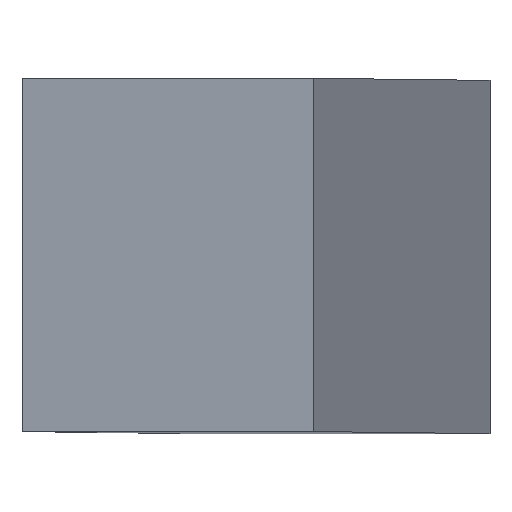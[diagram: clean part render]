
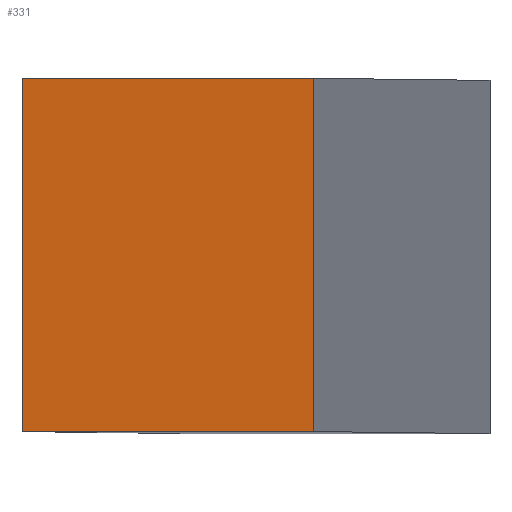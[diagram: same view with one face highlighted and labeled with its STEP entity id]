
A CAD part, top view. The second image highlights one B-rep face of the part: STEP entity #331.
In plain terms, the highlighted planar face has unit normal (-0.143, 0, 0.99).
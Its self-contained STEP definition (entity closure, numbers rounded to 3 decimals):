
#22 = VERTEX_POINT('',#23);
#23 = CARTESIAN_POINT('',(-90.103,-12.,-18.569));
#32 = PLANE('',#33);
#33 = AXIS2_PLACEMENT_3D('',#34,#35,#36);
#34 = CARTESIAN_POINT('',(-90.103,-12.,-18.569));
#35 = DIRECTION('',(-0.99,0.,-0.143));
#36 = DIRECTION('',(0.143,0.,-0.99));
#44 = PLANE('',#45);
#45 = AXIS2_PLACEMENT_3D('',#46,#47,#48);
#46 = CARTESIAN_POINT('',(-90.103,-12.,-18.569));
#47 = DIRECTION('',(0.,1.,0.));
#48 = DIRECTION('',(0.143,0.,-0.99));
#56 = EDGE_CURVE('',#22,#57,#59,.T.);
#57 = VERTEX_POINT('',#58);
#58 = CARTESIAN_POINT('',(-90.103,12.,-18.569));
#59 = SURFACE_CURVE('',#60,(#64,#71),.PCURVE_S1.);
#60 = LINE('',#61,#62);
#61 = CARTESIAN_POINT('',(-90.103,-12.,-18.569));
#62 = VECTOR('',#63,1.);
#63 = DIRECTION('',(0.,1.,0.));
#64 = PCURVE('',#32,#65);
#65 = DEFINITIONAL_REPRESENTATION('',(#66),#70);
#66 = LINE('',#67,#68);
#67 = CARTESIAN_POINT('',(0.,0.));
#68 = VECTOR('',#69,1.);
#69 = DIRECTION('',(0.,-1.));
#70 = ( GEOMETRIC_REPRESENTATION_CONTEXT(2) 
PARAMETRIC_REPRESENTATION_CONTEXT() REPRESENTATION_CONTEXT('2D SPACE',''
  ) );
#71 = PCURVE('',#72,#77);
#72 = PLANE('',#73);
#73 = AXIS2_PLACEMENT_3D('',#74,#75,#76);
#74 = CARTESIAN_POINT('',(-90.103,-12.,-18.569));
#75 = DIRECTION('',(0.143,0.,-0.99));
#76 = DIRECTION('',(-0.99,0.,-0.143));
#77 = DEFINITIONAL_REPRESENTATION('',(#78),#82);
#78 = LINE('',#79,#80);
#79 = CARTESIAN_POINT('',(0.,0.));
#80 = VECTOR('',#81,1.);
#81 = DIRECTION('',(0.,1.));
#82 = ( GEOMETRIC_REPRESENTATION_CONTEXT(2) 
PARAMETRIC_REPRESENTATION_CONTEXT() REPRESENTATION_CONTEXT('2D SPACE',''
  ) );
#100 = PLANE('',#101);
#101 = AXIS2_PLACEMENT_3D('',#102,#103,#104);
#102 = CARTESIAN_POINT('',(-90.103,12.,-18.569));
#103 = DIRECTION('',(0.,1.,0.));
#104 = DIRECTION('',(0.143,0.,-0.99));
#142 = VERTEX_POINT('',#143);
#143 = CARTESIAN_POINT('',(-109.897,-12.,-21.431));
#152 = PLANE('',#153);
#153 = AXIS2_PLACEMENT_3D('',#154,#155,#156);
#154 = CARTESIAN_POINT('',(-109.897,-12.,-21.431));
#155 = DIRECTION('',(-0.99,0.,-0.143));
#156 = DIRECTION('',(0.143,0.,-0.99));
#171 = EDGE_CURVE('',#142,#172,#174,.T.);
#172 = VERTEX_POINT('',#173);
#173 = CARTESIAN_POINT('',(-109.897,12.,-21.431));
#174 = SURFACE_CURVE('',#175,(#179,#186),.PCURVE_S1.);
#175 = LINE('',#176,#177);
#176 = CARTESIAN_POINT('',(-109.897,-12.,-21.431));
#177 = VECTOR('',#178,1.);
#178 = DIRECTION('',(0.,1.,0.));
#179 = PCURVE('',#152,#180);
#180 = DEFINITIONAL_REPRESENTATION('',(#181),#185);
#181 = LINE('',#182,#183);
#182 = CARTESIAN_POINT('',(0.,0.));
#183 = VECTOR('',#184,1.);
#184 = DIRECTION('',(0.,-1.));
#185 = ( GEOMETRIC_REPRESENTATION_CONTEXT(2) 
PARAMETRIC_REPRESENTATION_CONTEXT() REPRESENTATION_CONTEXT('2D SPACE',''
  ) );
#186 = PCURVE('',#72,#187);
#187 = DEFINITIONAL_REPRESENTATION('',(#188),#192);
#188 = LINE('',#189,#190);
#189 = CARTESIAN_POINT('',(20.,0.));
#190 = VECTOR('',#191,1.);
#191 = DIRECTION('',(0.,1.));
#192 = ( GEOMETRIC_REPRESENTATION_CONTEXT(2) 
PARAMETRIC_REPRESENTATION_CONTEXT() REPRESENTATION_CONTEXT('2D SPACE',''
  ) );
#241 = EDGE_CURVE('',#22,#142,#242,.T.);
#242 = SURFACE_CURVE('',#243,(#247,#254),.PCURVE_S1.);
#243 = LINE('',#244,#245);
#244 = CARTESIAN_POINT('',(-90.103,-12.,-18.569));
#245 = VECTOR('',#246,1.);
#246 = DIRECTION('',(-0.99,0.,-0.143));
#247 = PCURVE('',#44,#248);
#248 = DEFINITIONAL_REPRESENTATION('',(#249),#253);
#249 = LINE('',#250,#251);
#250 = CARTESIAN_POINT('',(0.,0.));
#251 = VECTOR('',#252,1.);
#252 = DIRECTION('',(0.,1.));
#253 = ( GEOMETRIC_REPRESENTATION_CONTEXT(2) 
PARAMETRIC_REPRESENTATION_CONTEXT() REPRESENTATION_CONTEXT('2D SPACE',''
  ) );
#254 = PCURVE('',#72,#255);
#255 = DEFINITIONAL_REPRESENTATION('',(#256),#260);
#256 = LINE('',#257,#258);
#257 = CARTESIAN_POINT('',(0.,0.));
#258 = VECTOR('',#259,1.);
#259 = DIRECTION('',(1.,0.));
#260 = ( GEOMETRIC_REPRESENTATION_CONTEXT(2) 
PARAMETRIC_REPRESENTATION_CONTEXT() REPRESENTATION_CONTEXT('2D SPACE',''
  ) );
#288 = EDGE_CURVE('',#57,#172,#289,.T.);
#289 = SURFACE_CURVE('',#290,(#294,#301),.PCURVE_S1.);
#290 = LINE('',#291,#292);
#291 = CARTESIAN_POINT('',(-90.103,12.,-18.569));
#292 = VECTOR('',#293,1.);
#293 = DIRECTION('',(-0.99,0.,-0.143));
#294 = PCURVE('',#100,#295);
#295 = DEFINITIONAL_REPRESENTATION('',(#296),#300);
#296 = LINE('',#297,#298);
#297 = CARTESIAN_POINT('',(0.,0.));
#298 = VECTOR('',#299,1.);
#299 = DIRECTION('',(0.,1.));
#300 = ( GEOMETRIC_REPRESENTATION_CONTEXT(2) 
PARAMETRIC_REPRESENTATION_CONTEXT() REPRESENTATION_CONTEXT('2D SPACE',''
  ) );
#301 = PCURVE('',#72,#302);
#302 = DEFINITIONAL_REPRESENTATION('',(#303),#307);
#303 = LINE('',#304,#305);
#304 = CARTESIAN_POINT('',(0.,24.));
#305 = VECTOR('',#306,1.);
#306 = DIRECTION('',(1.,0.));
#307 = ( GEOMETRIC_REPRESENTATION_CONTEXT(2) 
PARAMETRIC_REPRESENTATION_CONTEXT() REPRESENTATION_CONTEXT('2D SPACE',''
  ) );
#331 = ADVANCED_FACE('',(#332),#72,.F.);
#332 = FACE_BOUND('',#333,.F.);
#333 = EDGE_LOOP('',(#334,#335,#336,#337));
#334 = ORIENTED_EDGE('',*,*,#56,.F.);
#335 = ORIENTED_EDGE('',*,*,#241,.T.);
#336 = ORIENTED_EDGE('',*,*,#171,.T.);
#337 = ORIENTED_EDGE('',*,*,#288,.F.);
